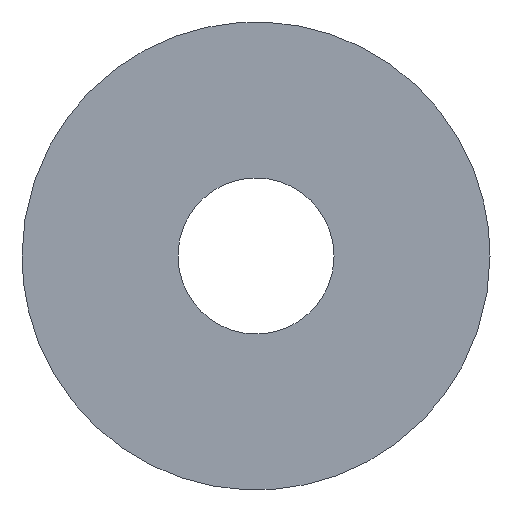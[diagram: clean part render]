
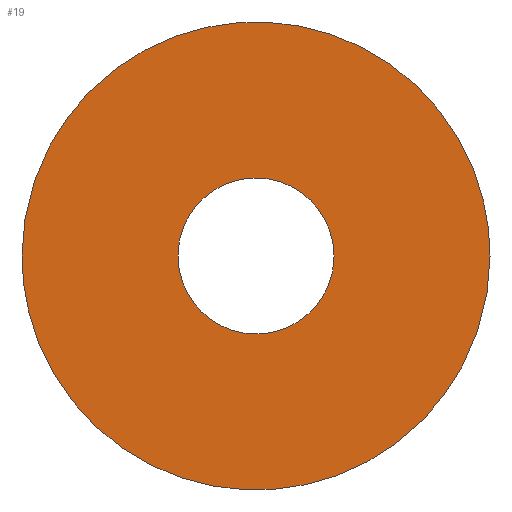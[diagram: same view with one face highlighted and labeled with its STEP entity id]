
A CAD part, front view. The second image highlights one B-rep face of the part: STEP entity #19.
In plain terms, the highlighted planar face has unit normal (0, -1, 0).
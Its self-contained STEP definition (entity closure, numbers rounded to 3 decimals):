
#15=FACE_BOUND('',#32,.T.);
#19=ADVANCED_FACE('',(#25,#15),#93,.T.);
#25=FACE_OUTER_BOUND('',#31,.T.);
#31=EDGE_LOOP('',(#45,#46));
#32=EDGE_LOOP('',(#47,#48));
#45=ORIENTED_EDGE('',*,*,#68,.F.);
#46=ORIENTED_EDGE('',*,*,#61,.F.);
#47=ORIENTED_EDGE('',*,*,#71,.F.);
#48=ORIENTED_EDGE('',*,*,#64,.F.);
#61=EDGE_CURVE('',#85,#89,#73,.T.);
#64=EDGE_CURVE('',#87,#91,#76,.T.);
#68=EDGE_CURVE('',#89,#85,#80,.T.);
#71=EDGE_CURVE('',#91,#87,#83,.T.);
#73=(
BOUNDED_CURVE()
B_SPLINE_CURVE(2,(#179,#180,#181,#182,#183),.UNSPECIFIED.,.F.,.F.)
B_SPLINE_CURVE_WITH_KNOTS((3,2,3),(-9.425,-7.069,
-4.712),.UNSPECIFIED.)
CURVE()
GEOMETRIC_REPRESENTATION_ITEM()
RATIONAL_B_SPLINE_CURVE((1.,0.707,1.,0.707,1.))
REPRESENTATION_ITEM('')
);
#76=(
BOUNDED_CURVE()
B_SPLINE_CURVE(2,(#191,#192,#193,#194,#195),.UNSPECIFIED.,.F.,.F.)
B_SPLINE_CURVE_WITH_KNOTS((3,2,3),(0.,2.356,4.712),
 .UNSPECIFIED.)
CURVE()
GEOMETRIC_REPRESENTATION_ITEM()
RATIONAL_B_SPLINE_CURVE((1.,0.707,1.,0.707,1.))
REPRESENTATION_ITEM('')
);
#80=(
BOUNDED_CURVE()
B_SPLINE_CURVE(2,(#205,#206,#207,#208,#209),.UNSPECIFIED.,.F.,.F.)
B_SPLINE_CURVE_WITH_KNOTS((3,2,3),(-4.712,-2.356,
0.),.UNSPECIFIED.)
CURVE()
GEOMETRIC_REPRESENTATION_ITEM()
RATIONAL_B_SPLINE_CURVE((1.,0.707,1.,0.707,1.))
REPRESENTATION_ITEM('')
);
#83=(
BOUNDED_CURVE()
B_SPLINE_CURVE(2,(#217,#218,#219,#220,#221),.UNSPECIFIED.,.F.,.F.)
B_SPLINE_CURVE_WITH_KNOTS((3,2,3),(4.712,7.069,9.425),
 .UNSPECIFIED.)
CURVE()
GEOMETRIC_REPRESENTATION_ITEM()
RATIONAL_B_SPLINE_CURVE((1.,0.707,1.,0.707,1.))
REPRESENTATION_ITEM('')
);
#85=VERTEX_POINT('',#171);
#87=VERTEX_POINT('',#173);
#89=VERTEX_POINT('',#175);
#91=VERTEX_POINT('',#177);
#93=PLANE('',#119);
#119=AXIS2_PLACEMENT_3D('',#149,#124,$);
#124=DIRECTION('',(0.,-1.,0.));
#149=CARTESIAN_POINT('',(-38.935,212.998,446.697));
#171=CARTESIAN_POINT('',(-40.06,212.998,452.322));
#173=CARTESIAN_POINT('',(-43.06,212.998,452.322));
#175=CARTESIAN_POINT('',(-49.06,212.998,452.322));
#177=CARTESIAN_POINT('',(-46.06,212.998,452.322));
#179=CARTESIAN_POINT('',(-40.06,212.998,452.322));
#180=CARTESIAN_POINT('',(-40.06,212.998,447.822));
#181=CARTESIAN_POINT('',(-44.56,212.998,447.822));
#182=CARTESIAN_POINT('',(-49.06,212.998,447.822));
#183=CARTESIAN_POINT('',(-49.06,212.998,452.322));
#191=CARTESIAN_POINT('',(-43.06,212.998,452.322));
#192=CARTESIAN_POINT('',(-43.06,212.998,453.822));
#193=CARTESIAN_POINT('',(-44.56,212.998,453.822));
#194=CARTESIAN_POINT('',(-46.06,212.998,453.822));
#195=CARTESIAN_POINT('',(-46.06,212.998,452.322));
#205=CARTESIAN_POINT('',(-49.06,212.998,452.322));
#206=CARTESIAN_POINT('',(-49.06,212.998,456.822));
#207=CARTESIAN_POINT('',(-44.56,212.998,456.822));
#208=CARTESIAN_POINT('',(-40.06,212.998,456.822));
#209=CARTESIAN_POINT('',(-40.06,212.998,452.322));
#217=CARTESIAN_POINT('',(-46.06,212.998,452.322));
#218=CARTESIAN_POINT('',(-46.06,212.998,450.822));
#219=CARTESIAN_POINT('',(-44.56,212.998,450.822));
#220=CARTESIAN_POINT('',(-43.06,212.998,450.822));
#221=CARTESIAN_POINT('',(-43.06,212.998,452.322));
